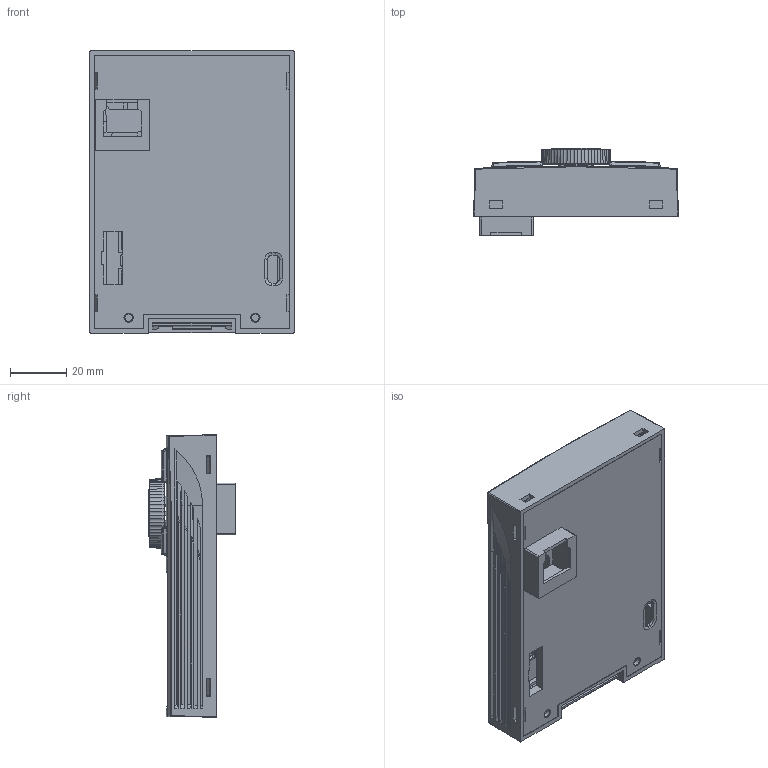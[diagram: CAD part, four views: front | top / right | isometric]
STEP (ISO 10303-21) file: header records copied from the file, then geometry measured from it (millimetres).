
FILE_DESCRIPTION(('STEP AP203'), '1');
FILE_NAME('INMX-KP-LED _ LED-ïàíåëü óïðàâëåíèÿ', '2026-04-29T11:38:15', ('admin'), (''), 'C3D Converter', 'C3D Toolkit', '');
FILE_SCHEMA(('CONFIG_CONTROL_DESIGN'));
Length unit declared in the file: millimetre
Products named in the file (5): INMX-KP-LED; CA700-1R5-SJ-10_A_203; CA700-1R5-SJ-11_A_14; CA700-1R5-SJ-13_A_59; CA700-1R5-GJ-02_A_73
Assembly tree (4 placements, depth 2):
  INMX-KP-LED
    CA700-1R5-SJ-10_A_203
    CA700-1R5-SJ-11_A_14
    CA700-1R5-SJ-13_A_59
    CA700-1R5-GJ-02_A_73
Bounding box: 72.59 x 31.01 x 100.16 mm (x, y, z)
Volume: 42649.6 mm3; surface area: 60031.6 mm2
Topology: 4 solids, 4 shells, 1781 faces, 4827 edges, 3002 vertices
Faces by surface type: plane 807, cylinder 385, bspline 307, cone 149, torus 76, extrusion 29, sphere 26, revolution 2
Full cylindrical faces by diameter (mm): 5.95 x1, 7.5 x1, 20 x1, 24 x1
Entity records: 106409 total; most frequent: CARTESIAN_POINT 52166, ORIENTED_EDGE 9374, DIRECTION 6478, EDGE_CURVE 4687, VERTEX_POINT 2999, VECTOR 2404, LINE 2375, AXIS2_PLACEMENT_3D 2036
